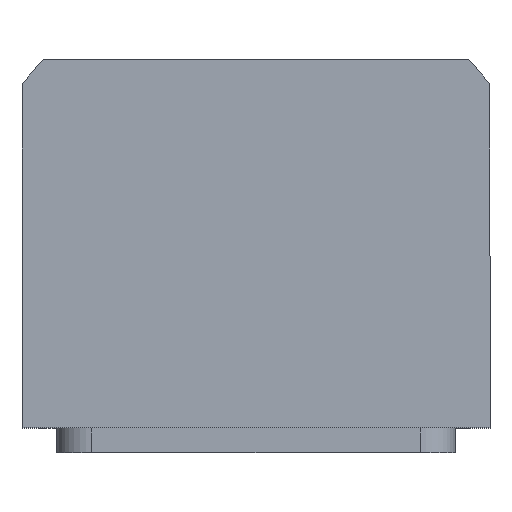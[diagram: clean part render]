
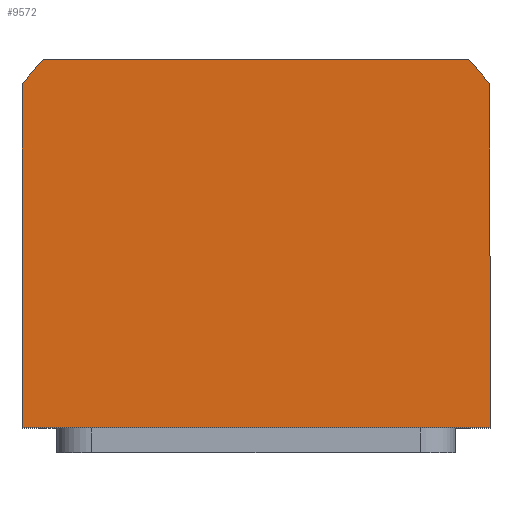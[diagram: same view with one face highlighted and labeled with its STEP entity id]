
A CAD part, top view. The second image highlights one B-rep face of the part: STEP entity #9572.
In plain terms, the highlighted planar face has unit normal (0, 0, 1).
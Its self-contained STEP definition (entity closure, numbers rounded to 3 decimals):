
#444 = VECTOR ( 'NONE', #3897, 1000. ) ;
#500 = EDGE_CURVE ( 'NONE', #14809, #11362, #1578, .T. ) ;
#1273 = CARTESIAN_POINT ( 'NONE',  ( 0., 0., 37.5 ) ) ;
#1578 = LINE ( 'NONE', #8603, #3971 ) ;
#1754 = PLANE ( 'NONE',  #4214 ) ;
#1928 = CIRCLE ( 'NONE', #13049, 58.5 ) ;
#2153 = ORIENTED_EDGE ( 'NONE', *, *, #15267, .T. ) ;
#2221 = CARTESIAN_POINT ( 'NONE',  ( 42.688, 40., 37.5 ) ) ;
#2434 = ORIENTED_EDGE ( 'NONE', *, *, #10380, .T. ) ;
#2847 = CARTESIAN_POINT ( 'NONE',  ( -47., -34., 37.5 ) ) ;
#2943 = DIRECTION ( 'NONE',  ( 1., 0., 0. ) ) ;
#3211 = ORIENTED_EDGE ( 'NONE', *, *, #12861, .T. ) ;
#3469 = LINE ( 'NONE', #2847, #4377 ) ;
#3541 = AXIS2_PLACEMENT_3D ( 'NONE', #4829, #11789, #11889 ) ;
#3897 = DIRECTION ( 'NONE',  ( 0., 1., 0. ) ) ;
#3971 = VECTOR ( 'NONE', #9804, 1000. ) ;
#4214 = AXIS2_PLACEMENT_3D ( 'NONE', #8875, #13643, #2943 ) ;
#4377 = VECTOR ( 'NONE', #13374, 1000. ) ;
#4482 = CARTESIAN_POINT ( 'NONE',  ( 47., -34., 37.5 ) ) ;
#4488 = LINE ( 'NONE', #10950, #444 ) ;
#4825 = CARTESIAN_POINT ( 'NONE',  ( -42.688, 40., 37.5 ) ) ;
#4829 = CARTESIAN_POINT ( 'NONE',  ( 0., 0., 37.5 ) ) ;
#5097 = EDGE_CURVE ( 'NONE', #11115, #14809, #3469, .T. ) ;
#5494 = CARTESIAN_POINT ( 'NONE',  ( -47., 34.832, 37.5 ) ) ;
#5809 = VERTEX_POINT ( 'NONE', #2221 ) ;
#5973 = DIRECTION ( 'NONE',  ( 1., 0., 0. ) ) ;
#6086 = DIRECTION ( 'NONE',  ( 0., 0., 1. ) ) ;
#6475 = DIRECTION ( 'NONE',  ( -1., 0., 0. ) ) ;
#6901 = ORIENTED_EDGE ( 'NONE', *, *, #500, .T. ) ;
#7281 = CARTESIAN_POINT ( 'NONE',  ( -47., -34., 37.5 ) ) ;
#8603 = CARTESIAN_POINT ( 'NONE',  ( 47., -34., 37.5 ) ) ;
#8875 = CARTESIAN_POINT ( 'NONE',  ( 0., 0., 37.5 ) ) ;
#9572 = ADVANCED_FACE ( 'NONE', ( #12752 ), #1754, .T. ) ;
#9804 = DIRECTION ( 'NONE',  ( 1., 0., 0. ) ) ;
#9868 = EDGE_CURVE ( 'NONE', #11362, #11688, #4488, .T. ) ;
#10040 = CARTESIAN_POINT ( 'NONE',  ( -42.688, 40., 37.5 ) ) ;
#10271 = VERTEX_POINT ( 'NONE', #4825 ) ;
#10280 = LINE ( 'NONE', #10040, #13558 ) ;
#10380 = EDGE_CURVE ( 'NONE', #11688, #5809, #1928, .T. ) ;
#10950 = CARTESIAN_POINT ( 'NONE',  ( 47., 34.832, 37.5 ) ) ;
#11115 = VERTEX_POINT ( 'NONE', #5494 ) ;
#11362 = VERTEX_POINT ( 'NONE', #4482 ) ;
#11688 = VERTEX_POINT ( 'NONE', #13052 ) ;
#11789 = DIRECTION ( 'NONE',  ( 0., 0., 1. ) ) ;
#11857 = ORIENTED_EDGE ( 'NONE', *, *, #9868, .T. ) ;
#11889 = DIRECTION ( 'NONE',  ( 1., 0., 0. ) ) ;
#11980 = CIRCLE ( 'NONE', #3541, 58.5 ) ;
#12282 = ORIENTED_EDGE ( 'NONE', *, *, #5097, .T. ) ;
#12752 = FACE_OUTER_BOUND ( 'NONE', #15011, .T. ) ;
#12861 = EDGE_CURVE ( 'NONE', #5809, #10271, #10280, .T. ) ;
#13049 = AXIS2_PLACEMENT_3D ( 'NONE', #1273, #6086, #5973 ) ;
#13052 = CARTESIAN_POINT ( 'NONE',  ( 47., 34.832, 37.5 ) ) ;
#13374 = DIRECTION ( 'NONE',  ( 0., -1., 0. ) ) ;
#13558 = VECTOR ( 'NONE', #6475, 1000. ) ;
#13643 = DIRECTION ( 'NONE',  ( 0., 0., 1. ) ) ;
#14809 = VERTEX_POINT ( 'NONE', #7281 ) ;
#15011 = EDGE_LOOP ( 'NONE', ( #6901, #11857, #2434, #3211, #2153, #12282 ) ) ;
#15267 = EDGE_CURVE ( 'NONE', #10271, #11115, #11980, .T. ) ;
